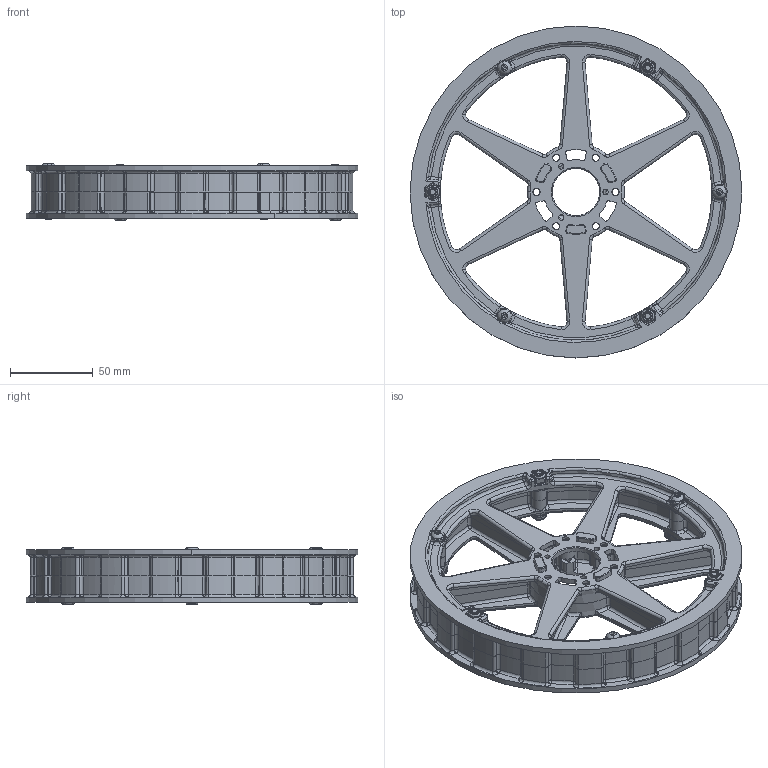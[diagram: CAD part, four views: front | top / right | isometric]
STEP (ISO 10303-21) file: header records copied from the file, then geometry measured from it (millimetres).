
FILE_DESCRIPTION (( 'STEP AP203' ), '1' );
FILE_NAME ('217-2605 1in.20121203.STEP', '2012-12-03T22:30:50', ( 'svradm' ), ( 'Microsoft' ), 'SwSTEP 2.0', 'SolidWorks 2012', '' );
FILE_SCHEMA (( 'CONFIG_CONTROL_DESIGN' ));
Length unit declared in the file: inch
Products named in the file (5): 217-2605 1in.20121203; BEAM-0750; 217-2605-001 Rev1; NUT-832-NYLOCK; SBS1_SBS0832-1250SS
Assembly tree (20 placements, depth 2):
  217-2605 1in.20121203
    SBS1_SBS0832-1250SS  x6
    NUT-832-NYLOCK  x6
    217-2605-001 Rev1  x2
    BEAM-0750  x6
Bounding box: 200.03 x 200.03 x 34.92 mm (x, y, z)
Volume: 242644.2 mm3; surface area: 142309 mm2
Topology: 20 solids, 20 shells, 3222 faces, 7934 edges, 4696 vertices
Faces by surface type: cylinder 1046, torus 764, plane 614, cone 322, bspline 288, sphere 188
Entity records: 50900 total; most frequent: CARTESIAN_POINT 15497, DIRECTION 7911, ORIENTED_EDGE 7014, EDGE_CURVE 3507, AXIS2_PLACEMENT_3D 3412, VERTEX_POINT 2097, CIRCLE 2066, EDGE_LOOP 1554
